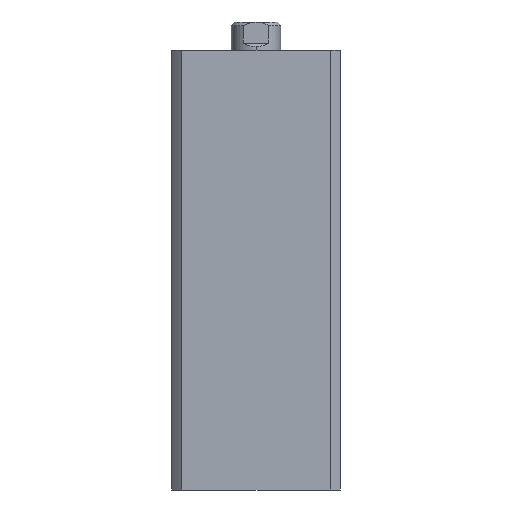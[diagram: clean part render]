
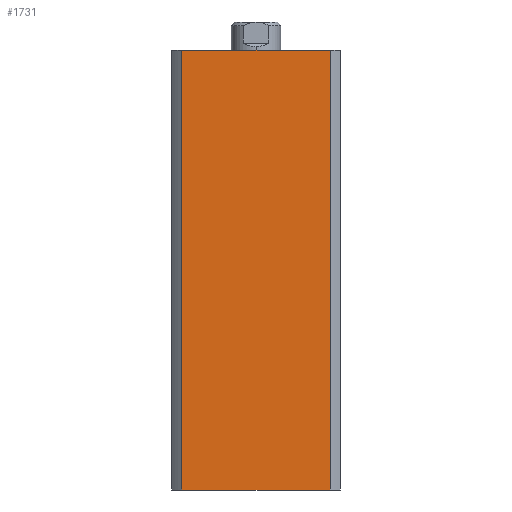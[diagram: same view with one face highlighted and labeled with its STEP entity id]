
A CAD part, left-side view. The second image highlights one B-rep face of the part: STEP entity #1731.
In plain terms, the highlighted planar face has unit normal (-1, 0, 0).
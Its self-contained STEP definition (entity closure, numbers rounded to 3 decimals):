
#72 = LINE ( 'NONE', #2476, #74 ) ;
#74 = VECTOR ( 'NONE', #2477, 1000. ) ;
#437 = PLANE ( 'NONE',  #4774 ) ;
#440 = CARTESIAN_POINT ( 'NONE',  ( -24., 0., 125. ) ) ;
#441 = DIRECTION ( 'NONE',  ( 1., 0., 0. ) ) ;
#442 = DIRECTION ( 'NONE',  ( 0., 0., -1. ) ) ;
#1037 = EDGE_LOOP ( 'NONE', ( #3411, #3412, #3413, #3414 ) ) ;
#1236 = CARTESIAN_POINT ( 'NONE',  ( -24., 21.166, 125. ) ) ;
#1557 = VERTEX_POINT ( 'NONE', #3900 ) ;
#1613 = EDGE_CURVE ( 'NONE', #3219, #3226, #2804, .T. ) ;
#1614 = EDGE_CURVE ( 'NONE', #1557, #3226, #2801, .T. ) ;
#1615 = EDGE_CURVE ( 'NONE', #5028, #3219, #2805, .T. ) ;
#1731 = ADVANCED_FACE ( 'NONE', ( #2893 ), #437, .F. ) ;
#2476 = CARTESIAN_POINT ( 'NONE',  ( -24., 0., 125. ) ) ;
#2477 = DIRECTION ( 'NONE',  ( 0., -1., 0. ) ) ;
#2801 = LINE ( 'NONE', #3886, #2806 ) ;
#2803 = VECTOR ( 'NONE', #3883, 1000. ) ;
#2804 = LINE ( 'NONE', #3885, #2803 ) ;
#2805 = LINE ( 'NONE', #3881, #2808 ) ;
#2806 = VECTOR ( 'NONE', #3882, 1000. ) ;
#2808 = VECTOR ( 'NONE', #3880, 1000. ) ;
#2893 = FACE_OUTER_BOUND ( 'NONE', #1037, .T. ) ;
#3219 = VERTEX_POINT ( 'NONE', #4573 ) ;
#3226 = VERTEX_POINT ( 'NONE', #4580 ) ;
#3411 = ORIENTED_EDGE ( 'NONE', *, *, #1613, .T. ) ;
#3412 = ORIENTED_EDGE ( 'NONE', *, *, #1614, .F. ) ;
#3413 = ORIENTED_EDGE ( 'NONE', *, *, #4623, .F. ) ;
#3414 = ORIENTED_EDGE ( 'NONE', *, *, #1615, .T. ) ;
#3880 = DIRECTION ( 'NONE',  ( 0., 0., -1. ) ) ;
#3881 = CARTESIAN_POINT ( 'NONE',  ( -24., 21.166, 125. ) ) ;
#3882 = DIRECTION ( 'NONE',  ( 0., 0., -1. ) ) ;
#3883 = DIRECTION ( 'NONE',  ( 0., -1., 0. ) ) ;
#3885 = CARTESIAN_POINT ( 'NONE',  ( -24., 0., 0. ) ) ;
#3886 = CARTESIAN_POINT ( 'NONE',  ( -24., -21.166, 125. ) ) ;
#3900 = CARTESIAN_POINT ( 'NONE',  ( -24., -21.166, 125. ) ) ;
#4573 = CARTESIAN_POINT ( 'NONE',  ( -24., 21.166, 0. ) ) ;
#4580 = CARTESIAN_POINT ( 'NONE',  ( -24., -21.166, 0. ) ) ;
#4623 = EDGE_CURVE ( 'NONE', #5028, #1557, #72, .T. ) ;
#4774 = AXIS2_PLACEMENT_3D ( 'NONE', #440, #441, #442 ) ;
#5028 = VERTEX_POINT ( 'NONE', #1236 ) ;
